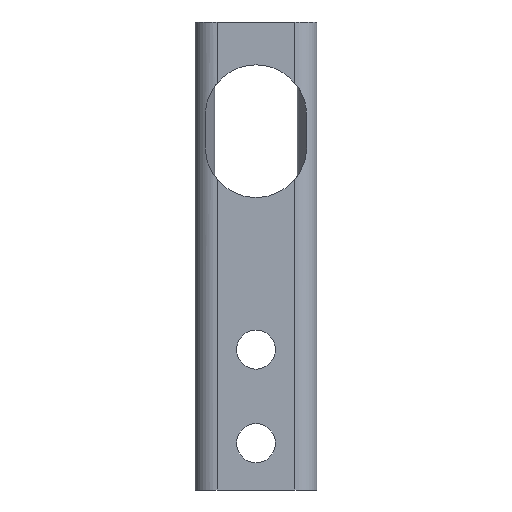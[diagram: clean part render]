
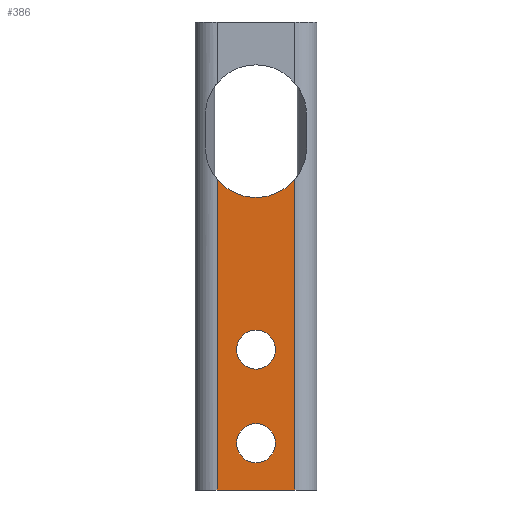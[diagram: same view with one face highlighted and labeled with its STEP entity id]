
A CAD part, front view. The second image highlights one B-rep face of the part: STEP entity #386.
In plain terms, the highlighted planar face has unit normal (0, -1, 0).
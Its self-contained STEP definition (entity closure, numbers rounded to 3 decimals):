
#183 = EDGE_LOOP ( 'NONE', ( #414, #300, #416, #301 ) ) ;
#184 = EDGE_CURVE ( 'NONE', #313, #312, #841, .T. ) ;
#186 = VERTEX_POINT ( 'NONE', #836 ) ;
#190 = ORIENTED_EDGE ( 'NONE', *, *, #311, .T. ) ;
#191 = VERTEX_POINT ( 'NONE', #830 ) ;
#192 = ORIENTED_EDGE ( 'NONE', *, *, #184, .T. ) ;
#195 = VERTEX_POINT ( 'NONE', #823 ) ;
#196 = EDGE_CURVE ( 'NONE', #413, #195, #822, .T. ) ;
#198 = EDGE_CURVE ( 'NONE', #413, #191, #816, .T. ) ;
#300 = ORIENTED_EDGE ( 'NONE', *, *, #196, .T. ) ;
#301 = ORIENTED_EDGE ( 'NONE', *, *, #302, .T. ) ;
#302 = EDGE_CURVE ( 'NONE', #186, #191, #1039, .T. ) ;
#311 = EDGE_CURVE ( 'NONE', #312, #313, #1179, .T. ) ;
#312 = VERTEX_POINT ( 'NONE', #1229 ) ;
#313 = VERTEX_POINT ( 'NONE', #1228 ) ;
#386 = ADVANCED_FACE ( 'NONE', ( #1423, #1422, #1421 ), #1434, .F. ) ;
#387 = EDGE_LOOP ( 'NONE', ( #388, #390 ) ) ;
#388 = ORIENTED_EDGE ( 'NONE', *, *, #389, .T. ) ;
#389 = EDGE_CURVE ( 'NONE', #400, #399, #1495, .T. ) ;
#390 = ORIENTED_EDGE ( 'NONE', *, *, #398, .T. ) ;
#391 = EDGE_LOOP ( 'NONE', ( #192, #190 ) ) ;
#398 = EDGE_CURVE ( 'NONE', #399, #400, #1450, .T. ) ;
#399 = VERTEX_POINT ( 'NONE', #1441 ) ;
#400 = VERTEX_POINT ( 'NONE', #1440 ) ;
#413 = VERTEX_POINT ( 'NONE', #1557 ) ;
#414 = ORIENTED_EDGE ( 'NONE', *, *, #198, .F. ) ;
#416 = ORIENTED_EDGE ( 'NONE', *, *, #417, .T. ) ;
#417 = EDGE_CURVE ( 'NONE', #195, #186, #1556, .T. ) ;
#813 = DIRECTION ( 'NONE',  ( 0., 0., -1. ) ) ;
#814 = VECTOR ( 'NONE', #813, 1000. ) ;
#815 = CARTESIAN_POINT ( 'NONE',  ( 2.5, 0., 30. ) ) ;
#816 = LINE ( 'NONE', #815, #814 ) ;
#818 = DIRECTION ( 'NONE',  ( 0., 0., 1. ) ) ;
#819 = DIRECTION ( 'NONE',  ( 0., 1., 0. ) ) ;
#820 = CARTESIAN_POINT ( 'NONE',  ( 0., 0., 22. ) ) ;
#821 = AXIS2_PLACEMENT_3D ( 'NONE', #820, #819, #818 ) ;
#822 = CIRCLE ( 'NONE', #821, 3.25 ) ;
#823 = CARTESIAN_POINT ( 'NONE',  ( -2.5, 0., 19.923 ) ) ;
#830 = CARTESIAN_POINT ( 'NONE',  ( 2.5, 0., 0. ) ) ;
#836 = CARTESIAN_POINT ( 'NONE',  ( -2.5, 0., 0. ) ) ;
#837 = DIRECTION ( 'NONE',  ( 0., 0., 1. ) ) ;
#838 = DIRECTION ( 'NONE',  ( 0., 1., 0. ) ) ;
#839 = CARTESIAN_POINT ( 'NONE',  ( 0., 0., 3. ) ) ;
#840 = AXIS2_PLACEMENT_3D ( 'NONE', #839, #838, #837 ) ;
#841 = CIRCLE ( 'NONE', #840, 1.25 ) ;
#1030 = DIRECTION ( 'NONE',  ( 1., 0., 0. ) ) ;
#1031 = VECTOR ( 'NONE', #1030, 1000. ) ;
#1032 = CARTESIAN_POINT ( 'NONE',  ( -2.5, 0., 0. ) ) ;
#1039 = LINE ( 'NONE', #1032, #1031 ) ;
#1172 = DIRECTION ( 'NONE',  ( 0., 1., 0. ) ) ;
#1173 = CARTESIAN_POINT ( 'NONE',  ( 0., 0., 3. ) ) ;
#1174 = AXIS2_PLACEMENT_3D ( 'NONE', #1173, #1172, #1230 ) ;
#1179 = CIRCLE ( 'NONE', #1174, 1.25 ) ;
#1228 = CARTESIAN_POINT ( 'NONE',  ( 0., 0., 4.25 ) ) ;
#1229 = CARTESIAN_POINT ( 'NONE',  ( 0., 0., 1.75 ) ) ;
#1230 = DIRECTION ( 'NONE',  ( 0., 0., 1. ) ) ;
#1421 = FACE_OUTER_BOUND ( 'NONE', #183, .T. ) ;
#1422 = FACE_BOUND ( 'NONE', #391, .T. ) ;
#1423 = FACE_BOUND ( 'NONE', #387, .T. ) ;
#1430 = DIRECTION ( 'NONE',  ( 0., 0., 1. ) ) ;
#1431 = DIRECTION ( 'NONE',  ( 0., 1., 0. ) ) ;
#1432 = CARTESIAN_POINT ( 'NONE',  ( -2.5, 0., 30. ) ) ;
#1433 = AXIS2_PLACEMENT_3D ( 'NONE', #1432, #1431, #1430 ) ;
#1434 = PLANE ( 'NONE',  #1433 ) ;
#1440 = CARTESIAN_POINT ( 'NONE',  ( 0., 0., 10.25 ) ) ;
#1441 = CARTESIAN_POINT ( 'NONE',  ( 0., 0., 7.75 ) ) ;
#1442 = DIRECTION ( 'NONE',  ( 0., 0., 1. ) ) ;
#1443 = DIRECTION ( 'NONE',  ( 0., 1., 0. ) ) ;
#1444 = CARTESIAN_POINT ( 'NONE',  ( 0., 0., 9. ) ) ;
#1445 = AXIS2_PLACEMENT_3D ( 'NONE', #1444, #1443, #1442 ) ;
#1450 = CIRCLE ( 'NONE', #1445, 1.25 ) ;
#1491 = DIRECTION ( 'NONE',  ( 0., 0., 1. ) ) ;
#1492 = DIRECTION ( 'NONE',  ( 0., 1., 0. ) ) ;
#1493 = CARTESIAN_POINT ( 'NONE',  ( 0., 0., 9. ) ) ;
#1494 = AXIS2_PLACEMENT_3D ( 'NONE', #1493, #1492, #1491 ) ;
#1495 = CIRCLE ( 'NONE', #1494, 1.25 ) ;
#1553 = DIRECTION ( 'NONE',  ( 0., 0., -1. ) ) ;
#1554 = VECTOR ( 'NONE', #1553, 1000. ) ;
#1555 = CARTESIAN_POINT ( 'NONE',  ( -2.5, 0., 30. ) ) ;
#1556 = LINE ( 'NONE', #1555, #1554 ) ;
#1557 = CARTESIAN_POINT ( 'NONE',  ( 2.5, 0., 19.923 ) ) ;
